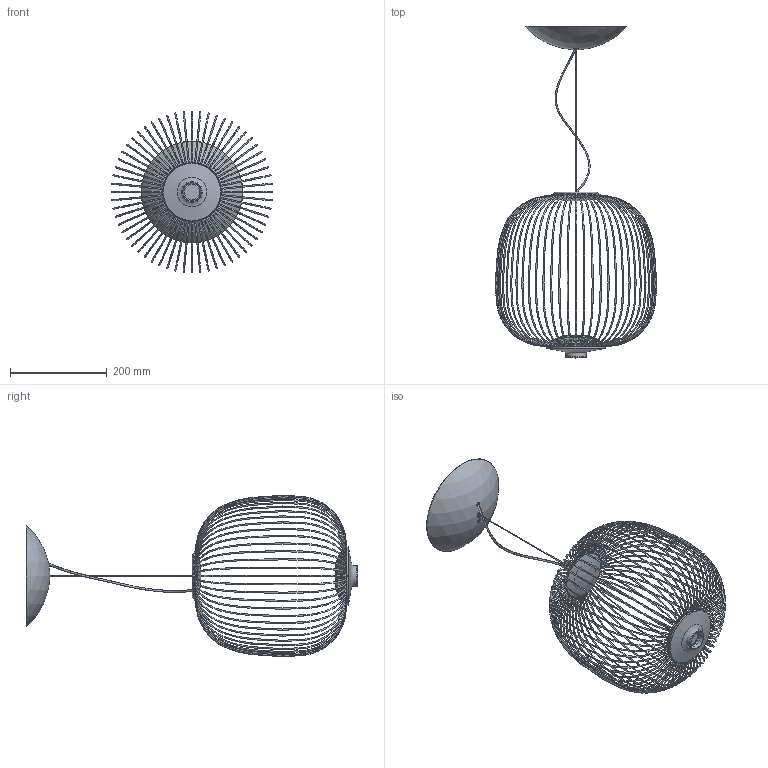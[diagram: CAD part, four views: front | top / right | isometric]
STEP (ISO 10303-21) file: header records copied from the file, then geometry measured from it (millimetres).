
FILE_DESCRIPTION (( 'STEP AP214' ), '1' );
FILE_NAME ('264_2-PICCOLA_S_LD_3D.STEP', '2021-12-06T09:09:50', ( '' ), ( '' ), 'SwSTEP 2.0', 'SolidWorks 2021', '' );
FILE_SCHEMA (( 'AUTOMOTIVE_DESIGN' ));
Length unit declared in the file: millimetre
Products named in the file (1): 264_2-PICCOLA_S_LD_3D
Bounding box: 333.82 x 685.84 x 333.82 mm (x, y, z)
Volume: 1303620.3 mm3; surface area: 418575.9 mm2
Topology: 70 solids, 70 shells, 1710 faces, 3964 edges, 2450 vertices
Faces by surface type: torus 602, plane 590, cylinder 256, bspline 130, cone 120, sphere 12
Full cylindrical faces by diameter (mm): 2 x1, 2.5 x121, 8.5 x1, 43 x1, 100 x1, 120 x1
Entity records: 72201 total; most frequent: CARTESIAN_POINT 19337, DIRECTION 6574, ORIENTED_EDGE 6232, EDGE_CURVE 3116, AXIS2_PLACEMENT_3D 2955, EDGE_LOOP 2490, FACE_OUTER_BOUND 2398, VERTEX_POINT 2312
